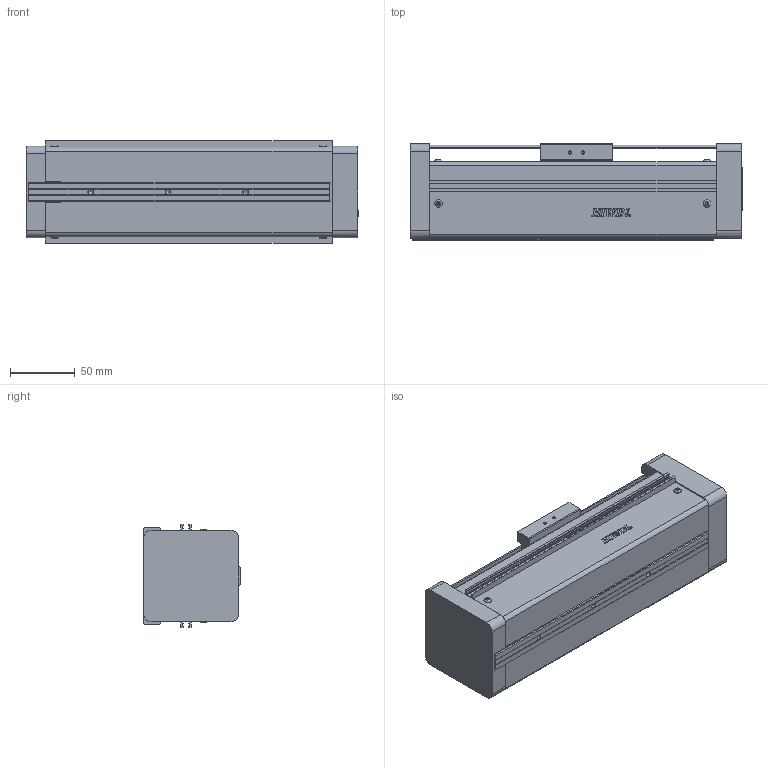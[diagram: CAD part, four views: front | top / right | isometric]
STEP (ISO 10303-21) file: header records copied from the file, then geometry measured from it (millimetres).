
FILE_DESCRIPTION(/* description */ (''),/* implementation_level */ '2;1');
FILE_NAME(/* name */ 'D:\混合母檔20191031\混和母檔\混和母檔\bin\Debug\Download\3D\KE705C-50AF0\KE705C-50AF0.stp',/* time_stamp */ '2019-11-04T13:59:15+08:00',/* author */ ('user'),/* organization */ (''),/* preprocessor_version */ 'ST-DEVELOPER v16.13',/* originating_system */ 'Autodesk Inventor 2018',/* authorisation */ '');
FILE_SCHEMA (('CONFIG_CONTROL_DESIGN','AUTOMOTIVE_DESIGN { 1 0 10303 214 3 1 1 }'));
Length unit declared in the file: millimetre
Products named in the file (3): KE705C-50AF0; KE70-F0-BP; KE70-SL
Assembly tree (2 placements, depth 2):
  KE705C-50AF0
    KE70-F0-BP
    KE70-SL
Bounding box: 257 x 75 x 79.4 mm (x, y, z)
Volume: 1077286.9 mm3; surface area: 170750 mm2
Topology: 2 solids, 29 shells, 802 faces, 2133 edges, 1404 vertices
Faces by surface type: plane 484, bspline 148, cylinder 101, cone 57, torus 12
Full cylindrical faces by diameter (mm): 2.459 x20, 3 x12, 3.242 x6, 3.5 x16, 4.134 x7, 5.7 x12, 6 x5, 30 x1
Entity records: 26969 total; most frequent: CARTESIAN_POINT 8652, ORIENTED_EDGE 3784, DIRECTION 3176, EDGE_CURVE 1892, VERTEX_POINT 1311, LINE 1248, VECTOR 1248, EDGE_LOOP 1005
